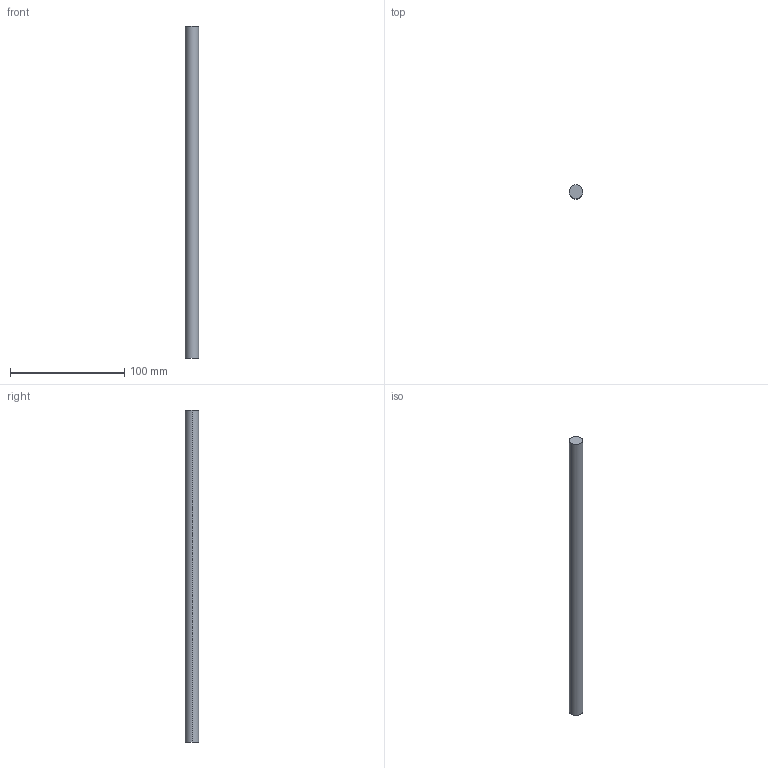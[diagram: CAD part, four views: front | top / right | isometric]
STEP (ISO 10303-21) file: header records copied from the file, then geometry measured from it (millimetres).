
FILE_DESCRIPTION (( 'STEP AP214' ), '1' );
FILE_NAME ('Magic Reling quer - S18_S19 - 400.step', '2010-09-07T14:56:11', ( 'grass' ), ( '' ), 'SwSTEP 2.0', 'SolidWorks 2010', '' );
FILE_SCHEMA (( 'AUTOMOTIVE_DESIGN' ));
Length unit declared in the file: millimetre
Products named in the file (1): Magic Reling quer - S18_S19 - 400
Bounding box: 12 x 12 x 291 mm (x, y, z)
Volume: 32911.3 mm3; surface area: 11196.6 mm2
Topology: 1 solids, 1 shells, 4 faces, 6 edges, 4 vertices
Faces by surface type: cylinder 2, plane 2
Entity records: 128 total; most frequent: DIRECTION 20, CARTESIAN_POINT 15, ORIENTED_EDGE 12, AXIS2_PLACEMENT_3D 9, EDGE_CURVE 6, VERTEX_POINT 4, EDGE_LOOP 4, FACE_OUTER_BOUND 4
